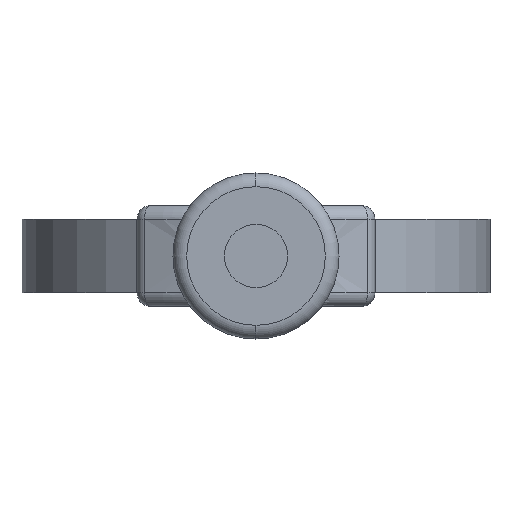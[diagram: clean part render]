
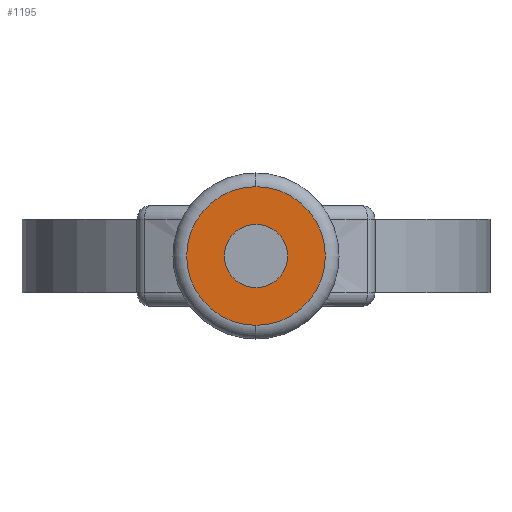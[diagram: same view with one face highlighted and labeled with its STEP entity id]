
A CAD part, front view. The second image highlights one B-rep face of the part: STEP entity #1195.
In plain terms, the highlighted planar face has unit normal (0, -1, 0).
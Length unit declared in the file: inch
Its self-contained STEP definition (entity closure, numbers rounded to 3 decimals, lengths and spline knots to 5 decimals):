
#17 = AXIS2_PLACEMENT_3D ( 'NONE', #499, #495, #494 ) ;
#18 = AXIS2_PLACEMENT_3D ( 'NONE', #513, #512, #511 ) ;
#74 = EDGE_CURVE ( 'NONE', #1822, #1823, #1925, .T. ) ;
#75 = EDGE_CURVE ( 'NONE', #1848, #1827, #1928, .T. ) ;
#180 = AXIS2_PLACEMENT_3D ( 'NONE', #1355, #1354, #1353 ) ;
#227 = EDGE_LOOP ( 'NONE', ( #326, #320 ) ) ;
#298 = ORIENTED_EDGE ( 'NONE', *, *, #2671, .T. ) ;
#320 = ORIENTED_EDGE ( 'NONE', *, *, #2688, .T. ) ;
#326 = ORIENTED_EDGE ( 'NONE', *, *, #75, .T. ) ;
#333 = ORIENTED_EDGE ( 'NONE', *, *, #74, .T. ) ;
#494 = DIRECTION ( 'NONE',  ( 0., 0., 1. ) ) ;
#495 = DIRECTION ( 'NONE',  ( 0., -1., 0. ) ) ;
#499 = CARTESIAN_POINT ( 'NONE',  ( 0., 0.47, 5.115 ) ) ;
#511 = DIRECTION ( 'NONE',  ( 0., 0., 1. ) ) ;
#512 = DIRECTION ( 'NONE',  ( 0., 1., 0. ) ) ;
#513 = CARTESIAN_POINT ( 'NONE',  ( 0., 0.47, 5.115 ) ) ;
#1195 = ADVANCED_FACE ( 'NONE', ( #2148, #2146 ), #1601, .F. ) ;
#1300 = CARTESIAN_POINT ( 'NONE',  ( 0., 0.47, 5.19055 ) ) ;
#1353 = DIRECTION ( 'NONE',  ( 0., 0., 1. ) ) ;
#1354 = DIRECTION ( 'NONE',  ( 0., -1., 0. ) ) ;
#1355 = CARTESIAN_POINT ( 'NONE',  ( 0., 0.47, 5.115 ) ) ;
#1361 = CARTESIAN_POINT ( 'NONE',  ( 0., 0.47, 5.03945 ) ) ;
#1382 = CARTESIAN_POINT ( 'NONE',  ( 0., 0.47, 5.1495 ) ) ;
#1401 = CARTESIAN_POINT ( 'NONE',  ( 0., 0.47, 5.0805 ) ) ;
#1453 = DIRECTION ( 'NONE',  ( 0., 0., 1. ) ) ;
#1455 = DIRECTION ( 'NONE',  ( 0., 1., 0. ) ) ;
#1456 = CARTESIAN_POINT ( 'NONE',  ( 0., 0.47, 5.115 ) ) ;
#1591 = DIRECTION ( 'NONE',  ( 0., 0., 1. ) ) ;
#1595 = DIRECTION ( 'NONE',  ( 0., 1., 0. ) ) ;
#1601 = PLANE ( 'NONE',  #2391 ) ;
#1610 = CARTESIAN_POINT ( 'NONE',  ( 0., 0.47, 5.115 ) ) ;
#1822 = VERTEX_POINT ( 'NONE', #1401 ) ;
#1823 = VERTEX_POINT ( 'NONE', #1382 ) ;
#1827 = VERTEX_POINT ( 'NONE', #1361 ) ;
#1848 = VERTEX_POINT ( 'NONE', #1300 ) ;
#1925 = CIRCLE ( 'NONE', #18, 0.0345 ) ;
#1928 = CIRCLE ( 'NONE', #17, 0.07555 ) ;
#2146 = FACE_BOUND ( 'NONE', #2514, .T. ) ;
#2148 = FACE_OUTER_BOUND ( 'NONE', #227, .T. ) ;
#2218 = CIRCLE ( 'NONE', #2364, 0.0345 ) ;
#2243 = CIRCLE ( 'NONE', #180, 0.07555 ) ;
#2364 = AXIS2_PLACEMENT_3D ( 'NONE', #1456, #1455, #1453 ) ;
#2391 = AXIS2_PLACEMENT_3D ( 'NONE', #1610, #1595, #1591 ) ;
#2514 = EDGE_LOOP ( 'NONE', ( #298, #333 ) ) ;
#2671 = EDGE_CURVE ( 'NONE', #1823, #1822, #2218, .T. ) ;
#2688 = EDGE_CURVE ( 'NONE', #1827, #1848, #2243, .T. ) ;
